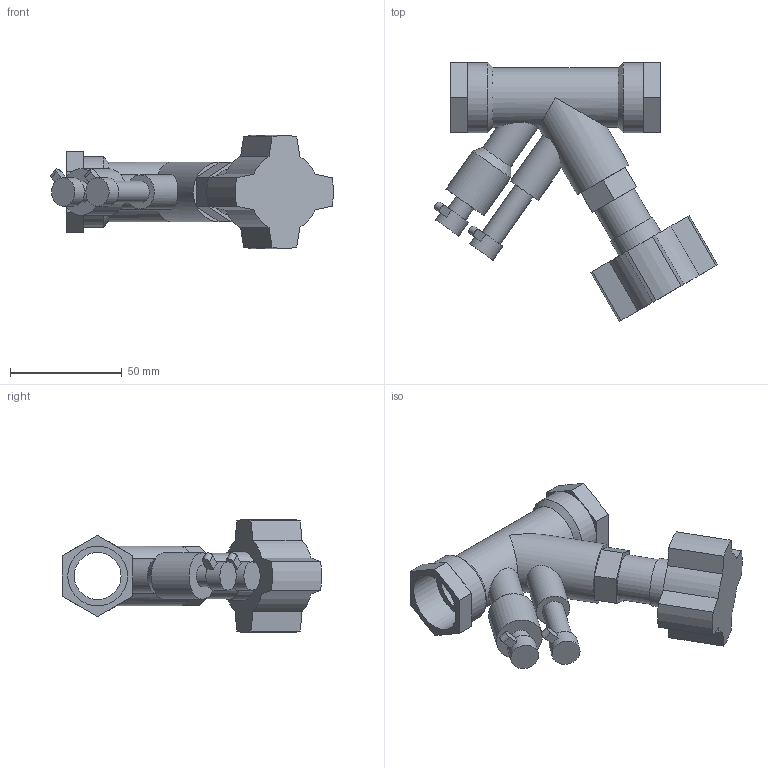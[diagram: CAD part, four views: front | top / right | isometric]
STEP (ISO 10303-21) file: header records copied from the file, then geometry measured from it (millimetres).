
FILE_DESCRIPTION(/* description */ ('VIC VALVE BALANCING TA SERIES 790 (FPT)-POTABLE WATER','CAx-IF Rec.Pracs.---Representation and Presentation of Product Manufacturing Information (PMI)---4.0---2014-10-13'),/* implementation_level */ '2;1');
FILE_NAME(/* name */ 'C:\Users\Vjadhav\Desktop\CAD for Inventor\1\790, 76X\STEP\Victaulic_IPS_Valve Balancing_TA Series 790 (FPT)-Potable Water\Victaulic_IPS_Valve Balancing_TA Series 790 (FPT)-Potable Water_0.75 (20).stp',/* time_stamp */ '2021-08-02T10:58:47+05:00',/* author */ ('cps_temp'),/* organization */ ('Victaulic'),/* preprocessor_version */ 'ST-DEVELOPER v17.2',/* originating_system */ 'Autodesk Inventor 2019',/* authorisation */ '');
FILE_SCHEMA (('AP242_MANAGED_MODEL_BASED_3D_ENGINEERING_MIM_LF { 1 0 10303 442 1 1 4 }'));
Length unit declared in the file: inch
Products named in the file (1): 790-0.75
Bounding box: 126.4 x 115.74 x 50.62 mm (x, y, z)
Volume: 107926.5 mm3; surface area: 33507.1 mm2
Topology: 1 solids, 1 shells, 88 faces, 222 edges, 147 vertices
Faces by surface type: plane 59, cylinder 26, cone 3
Full cylindrical faces by diameter (mm): 9.652 x2, 12.7 x2, 15.24 x2, 20.32 x1, 20.828 x1, 20.93 x1, 21.59 x1, 26.67 x4, 31.42 x2
Entity records: 2986 total; most frequent: CARTESIAN_POINT 558, DIRECTION 502, ORIENTED_EDGE 444, EDGE_CURVE 222, AXIS2_PLACEMENT_3D 184, VERTEX_POINT 147, LINE 134, VECTOR 134
